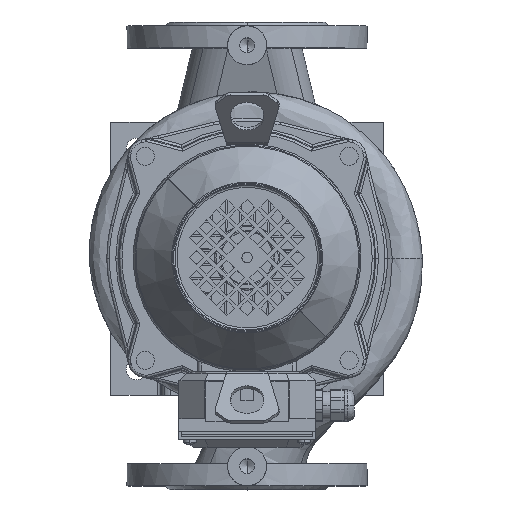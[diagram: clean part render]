
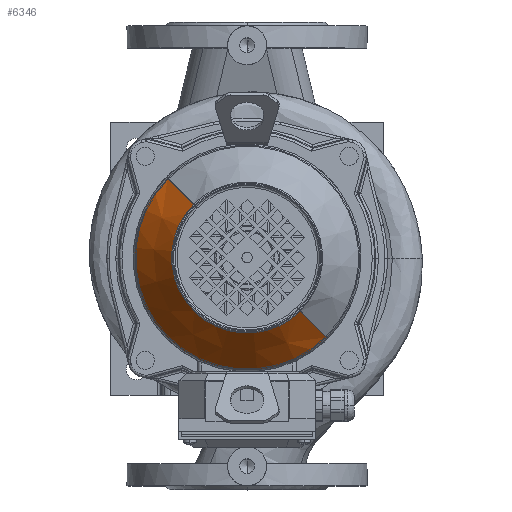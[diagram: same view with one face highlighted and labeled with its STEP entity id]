
A CAD part, top view. The second image highlights one B-rep face of the part: STEP entity #6346.
In plain terms, the highlighted conical face has half-angle 37 degrees and reference radius 58.108 mm.
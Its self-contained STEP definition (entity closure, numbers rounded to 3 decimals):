
#6346=ADVANCED_FACE('NONE',(#15659),#15660,.T.);
#15659=FACE_OUTER_BOUND('',#31983,.T.);
#15660=CONICAL_SURFACE('',#31984,58.108,0.646);
#31983=EDGE_LOOP('',(#49198,#49199,#49200,#49201));
#31984=AXIS2_PLACEMENT_3D('',#49202,#49203,#49204);
#49198=ORIENTED_EDGE('',*,*,#57795,.F.);
#49199=ORIENTED_EDGE('',*,*,#57793,.F.);
#49200=ORIENTED_EDGE('',*,*,#57796,.F.);
#49201=ORIENTED_EDGE('',*,*,#57797,.T.);
#49202=CARTESIAN_POINT('',(0.0,96.403,0.0));
#49203=DIRECTION('',(-0.0,-1.0,-0.0));
#49204=DIRECTION('',(0.0,0.0,-1.0));
#57793=EDGE_CURVE('NONE',#70291,#70293,#70294,.T.);
#57795=EDGE_CURVE('',#70293,#70296,#70297,.T.);
#57796=EDGE_CURVE('',#70298,#70291,#70299,.T.);
#57797=EDGE_CURVE('NONE',#70298,#70296,#70300,.T.);
#70291=VERTEX_POINT('',#93397);
#70293=VERTEX_POINT('NONE',#93399);
#70294=CIRCLE('',#93400,58.108);
#70296=VERTEX_POINT('NONE',#93402);
#70297=LINE('',#93403,#93404);
#70298=VERTEX_POINT('',#93405);
#70299=LINE('',#93406,#93407);
#70300=CIRCLE('',#93408,86.592);
#93397=CARTESIAN_POINT('',(0.,96.403,58.108));
#93399=CARTESIAN_POINT('',(0.,96.403,-58.108));
#93400=AXIS2_PLACEMENT_3D('',#104280,#104281,#104282);
#93402=CARTESIAN_POINT('',(0.0,58.603,-86.592));
#93403=CARTESIAN_POINT('',(0.,96.403,-58.108));
#93404=VECTOR('',#104286,1.0);
#93405=CARTESIAN_POINT('',(0.,58.603,86.592));
#93406=CARTESIAN_POINT('',(0.,96.403,58.108));
#93407=VECTOR('',#104287,1.0);
#93408=AXIS2_PLACEMENT_3D('',#104288,#104289,#104290);
#104280=CARTESIAN_POINT('',(0.0,96.403,0.0));
#104281=DIRECTION('',(-0.0,1.0,0.0));
#104282=DIRECTION('',(0.0,0.0,1.0));
#104286=DIRECTION('',(0.,-0.799,-0.602));
#104287=DIRECTION('',(0.,0.799,-0.602));
#104288=CARTESIAN_POINT('',(0.0,58.603,0.0));
#104289=DIRECTION('',(-0.0,1.0,0.0));
#104290=DIRECTION('',(0.0,0.0,1.0));
